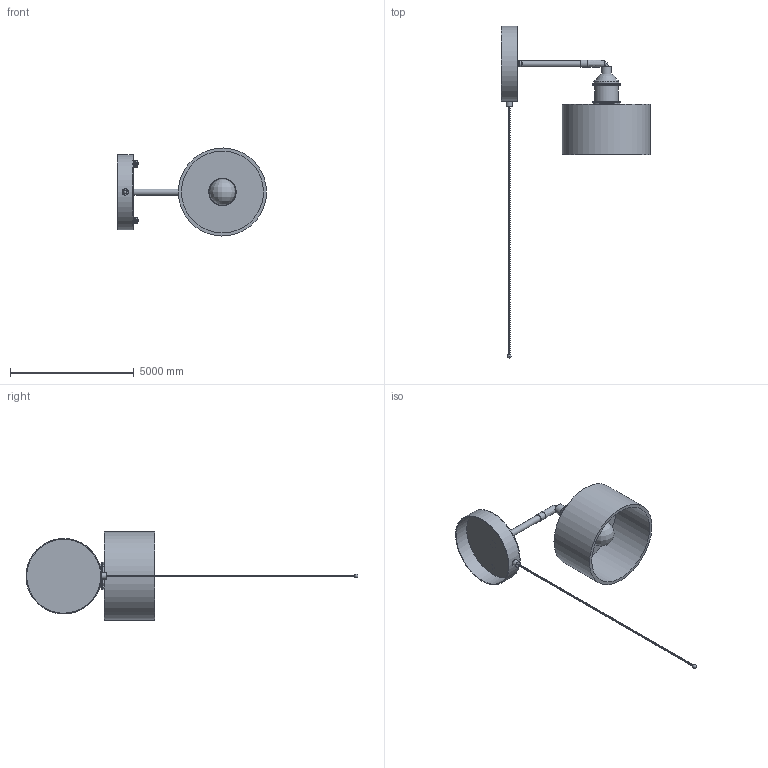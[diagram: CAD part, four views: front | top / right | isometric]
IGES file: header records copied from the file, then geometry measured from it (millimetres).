
Global section: file name: Rotatable Wooden Wall Lamp-H 5.1″,4; native system: 8HAutoCAD 2022 - 简体中文 (Simplified Chinese); preprocessor: Autodesk Translation Framework DWG producer (atf_dwg_producer); organization: unknown; date: 20251030.151021; units: inch
Bounding box: 6015.17 x 13400.86 x 3555.01 mm (x, y, z)
Volume: 5522819700.3 mm3; surface area: 112299743.6 mm2
Topology: 15 solids, 15 shells, 1292 faces, 3779 edges, 2532 vertices
Faces by surface type: bspline 1292
